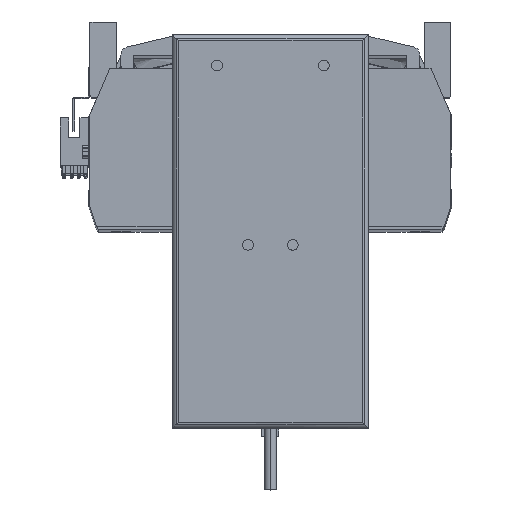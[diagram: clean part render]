
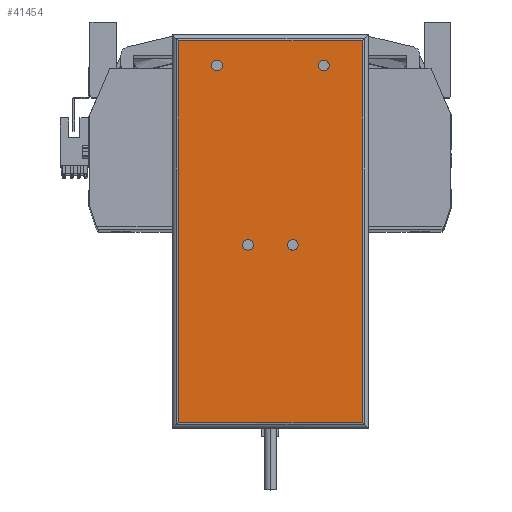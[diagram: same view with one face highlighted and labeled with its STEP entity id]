
A CAD part, top view. The second image highlights one B-rep face of the part: STEP entity #41454.
In plain terms, the highlighted planar face has unit normal (0, 0, 1) as drawn and (0, 0, -1) by its records, which use the part's own axes.
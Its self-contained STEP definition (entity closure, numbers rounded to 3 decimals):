
#32 = DIRECTION ( 'NONE',  ( -1., 0., 0. ) ) ;
#134 = CARTESIAN_POINT ( 'NONE',  ( 10.5, -6.25, 0. ) ) ;
#558 = AXIS2_PLACEMENT_3D ( 'NONE', #31657, #46324, #20705 ) ;
#677 = CARTESIAN_POINT ( 'NONE',  ( -46., -92.25, 0. ) ) ;
#1087 = DIRECTION ( 'NONE',  ( -1., 0., 0. ) ) ;
#1329 = DIRECTION ( 'NONE',  ( 0., -1., 0. ) ) ;
#1341 = CARTESIAN_POINT ( 'NONE',  ( -25., 77.75, 0. ) ) ;
#1750 = EDGE_CURVE ( 'NONE', #33803, #26381, #21103, .T. ) ;
#1851 = ORIENTED_EDGE ( 'NONE', *, *, #18719, .F. ) ;
#2278 = DIRECTION ( 'NONE',  ( -1., 0., 0. ) ) ;
#2344 = CIRCLE ( 'NONE', #29488, 2.5 ) ;
#2408 = CARTESIAN_POINT ( 'NONE',  ( -43., 89.25, 0. ) ) ;
#2759 = DIRECTION ( 'NONE',  ( 0., 0., -1. ) ) ;
#2879 = ORIENTED_EDGE ( 'NONE', *, *, #1750, .F. ) ;
#3860 = VECTOR ( 'NONE', #26480, 1000. ) ;
#3892 = DIRECTION ( 'NONE',  ( 0., 0., -1. ) ) ;
#4060 = CARTESIAN_POINT ( 'NONE',  ( 43., 89.25, 0. ) ) ;
#4223 = DIRECTION ( 'NONE',  ( -1., 0., 0. ) ) ;
#4526 = EDGE_CURVE ( 'NONE', #11629, #38385, #44433, .T. ) ;
#4888 = EDGE_CURVE ( 'NONE', #21355, #7211, #2344, .T. ) ;
#7211 = VERTEX_POINT ( 'NONE', #16168 ) ;
#7851 = EDGE_CURVE ( 'NONE', #43897, #45169, #19113, .T. ) ;
#7855 = FACE_BOUND ( 'NONE', #46926, .T. ) ;
#8824 = EDGE_LOOP ( 'NONE', ( #17701, #28130 ) ) ;
#8981 = CARTESIAN_POINT ( 'NONE',  ( 43., -92.25, 0. ) ) ;
#9044 = EDGE_CURVE ( 'NONE', #7211, #21355, #28393, .T. ) ;
#11271 = DIRECTION ( 'NONE',  ( 0., 0., -1. ) ) ;
#11581 = VERTEX_POINT ( 'NONE', #17807 ) ;
#11629 = VERTEX_POINT ( 'NONE', #14045 ) ;
#12335 = CARTESIAN_POINT ( 'NONE',  ( 10.5, -6.25, 0. ) ) ;
#12628 = EDGE_CURVE ( 'NONE', #11581, #35652, #27403, .T. ) ;
#12893 = EDGE_LOOP ( 'NONE', ( #38608, #1851 ) ) ;
#13258 = VECTOR ( 'NONE', #18990, 1000. ) ;
#13820 = DIRECTION ( 'NONE',  ( 0., 0., -1. ) ) ;
#13839 = AXIS2_PLACEMENT_3D ( 'NONE', #18634, #11271, #32 ) ;
#14045 = CARTESIAN_POINT ( 'NONE',  ( -27.5, 77.75, 0. ) ) ;
#15194 = ORIENTED_EDGE ( 'NONE', *, *, #7851, .T. ) ;
#16120 = LINE ( 'NONE', #23198, #3860 ) ;
#16168 = CARTESIAN_POINT ( 'NONE',  ( -8., -6.25, 0. ) ) ;
#17701 = ORIENTED_EDGE ( 'NONE', *, *, #4888, .F. ) ;
#17807 = CARTESIAN_POINT ( 'NONE',  ( 8., -6.25, 0. ) ) ;
#17887 = DIRECTION ( 'NONE',  ( -1., 0., 0. ) ) ;
#18634 = CARTESIAN_POINT ( 'NONE',  ( -25., 77.75, 0. ) ) ;
#18719 = EDGE_CURVE ( 'NONE', #35652, #11581, #46241, .T. ) ;
#18990 = DIRECTION ( 'NONE',  ( -1., 0., 0. ) ) ;
#19113 = LINE ( 'NONE', #44898, #24368 ) ;
#19129 = DIRECTION ( 'NONE',  ( -1., 0., 0. ) ) ;
#19590 = CARTESIAN_POINT ( 'NONE',  ( 22.5, 77.75, 0. ) ) ;
#19782 = CARTESIAN_POINT ( 'NONE',  ( 25., 77.75, 0. ) ) ;
#20705 = DIRECTION ( 'NONE',  ( -1., 0., 0. ) ) ;
#21103 = CIRCLE ( 'NONE', #28801, 2.5 ) ;
#21355 = VERTEX_POINT ( 'NONE', #45247 ) ;
#21507 = ORIENTED_EDGE ( 'NONE', *, *, #43338, .T. ) ;
#22214 = ORIENTED_EDGE ( 'NONE', *, *, #47301, .T. ) ;
#22555 = ORIENTED_EDGE ( 'NONE', *, *, #41637, .F. ) ;
#22737 = VERTEX_POINT ( 'NONE', #36429 ) ;
#22927 = ORIENTED_EDGE ( 'NONE', *, *, #32240, .T. ) ;
#23198 = CARTESIAN_POINT ( 'NONE',  ( -43., -92.25, 0. ) ) ;
#24025 = EDGE_LOOP ( 'NONE', ( #21507, #22214, #22927, #15194 ) ) ;
#24177 = DIRECTION ( 'NONE',  ( 0., 0., -1. ) ) ;
#24368 = VECTOR ( 'NONE', #44571, 1000. ) ;
#26185 = PLANE ( 'NONE',  #47401 ) ;
#26198 = VERTEX_POINT ( 'NONE', #42794 ) ;
#26381 = VERTEX_POINT ( 'NONE', #19590 ) ;
#26449 = AXIS2_PLACEMENT_3D ( 'NONE', #1341, #24177, #31547 ) ;
#26480 = DIRECTION ( 'NONE',  ( 0., 1., 0. ) ) ;
#27160 = FACE_BOUND ( 'NONE', #8824, .T. ) ;
#27403 = CIRCLE ( 'NONE', #28158, 2.5 ) ;
#28130 = ORIENTED_EDGE ( 'NONE', *, *, #9044, .F. ) ;
#28158 = AXIS2_PLACEMENT_3D ( 'NONE', #12335, #34260, #1087 ) ;
#28393 = CIRCLE ( 'NONE', #558, 2.5 ) ;
#28801 = AXIS2_PLACEMENT_3D ( 'NONE', #39791, #13820, #17887 ) ;
#29488 = AXIS2_PLACEMENT_3D ( 'NONE', #46997, #2759, #2278 ) ;
#30560 = DIRECTION ( 'NONE',  ( 0., 0., -1. ) ) ;
#31334 = ORIENTED_EDGE ( 'NONE', *, *, #4526, .F. ) ;
#31547 = DIRECTION ( 'NONE',  ( -1., 0., 0. ) ) ;
#31657 = CARTESIAN_POINT ( 'NONE',  ( -10.5, -6.25, 0. ) ) ;
#32240 = EDGE_CURVE ( 'NONE', #26198, #43897, #16120, .T. ) ;
#32442 = FACE_OUTER_BOUND ( 'NONE', #24025, .T. ) ;
#33552 = CARTESIAN_POINT ( 'NONE',  ( -46., -89.25, 0. ) ) ;
#33803 = VERTEX_POINT ( 'NONE', #42344 ) ;
#34260 = DIRECTION ( 'NONE',  ( 0., 0., -1. ) ) ;
#35389 = FACE_BOUND ( 'NONE', #39717, .T. ) ;
#35652 = VERTEX_POINT ( 'NONE', #46262 ) ;
#35853 = LINE ( 'NONE', #8981, #44541 ) ;
#36429 = CARTESIAN_POINT ( 'NONE',  ( 43., -89.25, 0. ) ) ;
#37107 = CIRCLE ( 'NONE', #43960, 2.5 ) ;
#37677 = ORIENTED_EDGE ( 'NONE', *, *, #41747, .F. ) ;
#38306 = FACE_BOUND ( 'NONE', #12893, .T. ) ;
#38385 = VERTEX_POINT ( 'NONE', #41648 ) ;
#38390 = DIRECTION ( 'NONE',  ( 1., 0., 0. ) ) ;
#38608 = ORIENTED_EDGE ( 'NONE', *, *, #12628, .F. ) ;
#39717 = EDGE_LOOP ( 'NONE', ( #22555, #2879 ) ) ;
#39791 = CARTESIAN_POINT ( 'NONE',  ( 25., 77.75, 0. ) ) ;
#41454 = ADVANCED_FACE ( 'NONE', ( #32442, #27160, #38306, #7855, #35389 ), #26185, .F. ) ;
#41637 = EDGE_CURVE ( 'NONE', #26381, #33803, #37107, .T. ) ;
#41648 = CARTESIAN_POINT ( 'NONE',  ( -22.5, 77.75, 0. ) ) ;
#41747 = EDGE_CURVE ( 'NONE', #38385, #11629, #48136, .T. ) ;
#42344 = CARTESIAN_POINT ( 'NONE',  ( 27.5, 77.75, 0. ) ) ;
#42794 = CARTESIAN_POINT ( 'NONE',  ( -43., -89.25, 0. ) ) ;
#43338 = EDGE_CURVE ( 'NONE', #45169, #22737, #35853, .T. ) ;
#43897 = VERTEX_POINT ( 'NONE', #2408 ) ;
#43960 = AXIS2_PLACEMENT_3D ( 'NONE', #19782, #30560, #19129 ) ;
#44433 = CIRCLE ( 'NONE', #13839, 2.5 ) ;
#44541 = VECTOR ( 'NONE', #1329, 1000. ) ;
#44571 = DIRECTION ( 'NONE',  ( 1., 0., 0. ) ) ;
#44822 = LINE ( 'NONE', #33552, #13258 ) ;
#44898 = CARTESIAN_POINT ( 'NONE',  ( -46., 89.25, 0. ) ) ;
#45169 = VERTEX_POINT ( 'NONE', #4060 ) ;
#45247 = CARTESIAN_POINT ( 'NONE',  ( -13., -6.25, 0. ) ) ;
#45704 = DIRECTION ( 'NONE',  ( 0., 0., 1. ) ) ;
#46241 = CIRCLE ( 'NONE', #47225, 2.5 ) ;
#46262 = CARTESIAN_POINT ( 'NONE',  ( 13., -6.25, 0. ) ) ;
#46324 = DIRECTION ( 'NONE',  ( 0., 0., -1. ) ) ;
#46926 = EDGE_LOOP ( 'NONE', ( #31334, #37677 ) ) ;
#46997 = CARTESIAN_POINT ( 'NONE',  ( -10.5, -6.25, 0. ) ) ;
#47225 = AXIS2_PLACEMENT_3D ( 'NONE', #134, #3892, #4223 ) ;
#47301 = EDGE_CURVE ( 'NONE', #22737, #26198, #44822, .T. ) ;
#47401 = AXIS2_PLACEMENT_3D ( 'NONE', #677, #45704, #38390 ) ;
#48136 = CIRCLE ( 'NONE', #26449, 2.5 ) ;
